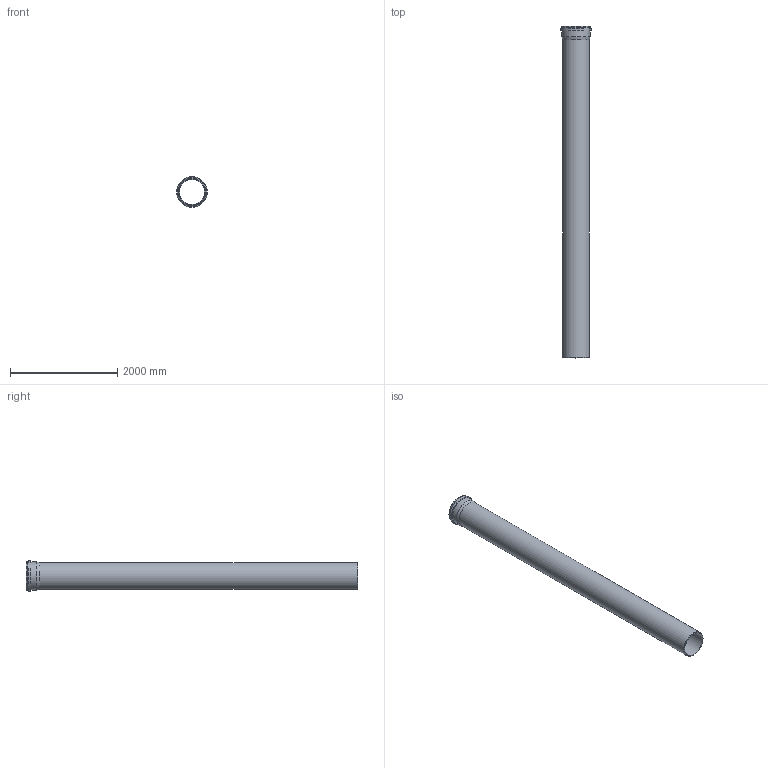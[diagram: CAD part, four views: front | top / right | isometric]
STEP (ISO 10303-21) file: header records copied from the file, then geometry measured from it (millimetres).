
FILE_DESCRIPTION(/* description */ (''),/* implementation_level */ '2;1');
FILE_NAME(/* name */ '771090z.stp',/* time_stamp */ '2025-10-07T12:18:07+02:00',/* author */ ('corinna'),/* organization */ (''),/* preprocessor_version */ 'ST-DEVELOPER v20',/* originating_system */ 'Autodesk Inventor 2024',/* authorisation */ '');
FILE_SCHEMA (('AUTOMOTIVE_DESIGN { 1 0 10303 214 3 1 1 }'));
Length unit declared in the file: millimetre
Products named in the file (1): 771090z
Bounding box: 569 x 6200 x 569 mm (x, y, z)
Volume: 155388373.4 mm3; surface area: 19023029.5 mm2
Topology: 1 solids, 1 shells, 33 faces, 88 edges, 57 vertices
Faces by surface type: torus 13, cone 10, cylinder 8, plane 2
Full cylindrical faces by diameter (mm): 467 x1, 500 x1, 503.5 x1, 504.5 x1, 530 x1, 530.5 x1, 535 x1, 569 x1
Entity records: 1119 total; most frequent: DIRECTION 226, CARTESIAN_POINT 179, ORIENTED_EDGE 176, AXIS2_PLACEMENT_3D 104, EDGE_CURVE 88, CIRCLE 70, VERTEX_POINT 57, EDGE_LOOP 35
